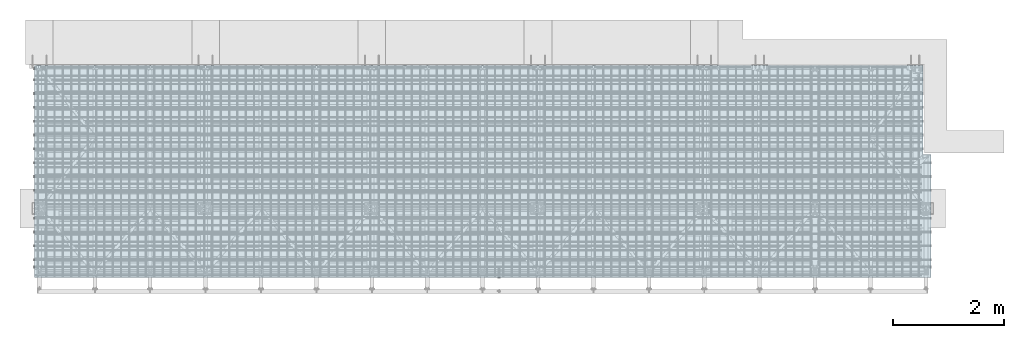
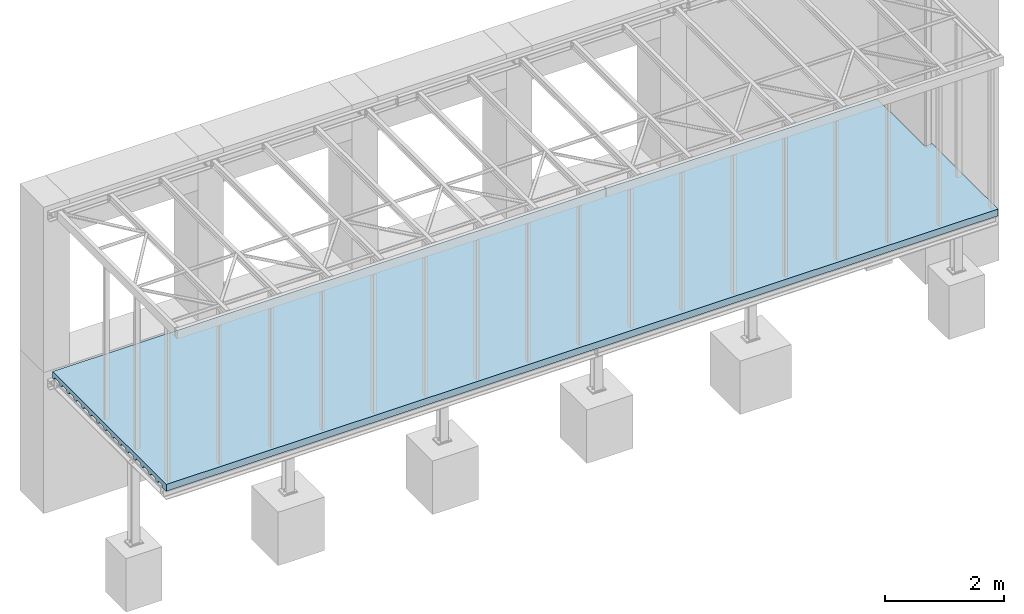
# One storey, part 27 of 27: 1 slab, 1 element without a shape of its own.
"""IFC2X3 building model written with IfcOpenShell, lengths in millimetres."""

from ifc_helpers import new_model, si_unit, frame, origin_with_axes, place, context, subcontext, project, spatial, faceted_brep, material, type_object, element, aggregate, save


model = new_model("IFC2X3")

# Units and contexts
model_context = context("Model", 3, precision=1e-05, world=origin_with_axes())
body_context = subcontext(model_context, "Body", "Model", "MODEL_VIEW")
ifc_project = project(units=[si_unit("LENGTHUNIT", "METRE", prefix="MILLI"), si_unit("AREAUNIT", "SQUARE_METRE"), si_unit("VOLUMEUNIT", "CUBIC_METRE"), si_unit("MASSUNIT", "GRAM", prefix="KILO"), si_unit("TIMEUNIT", "SECOND"), si_unit("PLANEANGLEUNIT", "RADIAN"), si_unit("SOLIDANGLEUNIT", "STERADIAN"), si_unit("THERMODYNAMICTEMPERATUREUNIT", "DEGREE_CELSIUS"), si_unit("LUMINOUSINTENSITYUNIT", "LUMEN")], contexts=[model_context])

# Site, building, storey
site_placement = place(None, origin_with_axes())
site = spatial("IfcSite", under=ifc_project, at=site_placement, Name="Undefined", CompositionType="ELEMENT")
building_placement = place(site_placement, origin_with_axes())
building = spatial("IfcBuilding", under=site, at=building_placement, Name="Undefined", CompositionType="ELEMENT")
storey_placement = place(building_placement, origin_with_axes())
storey = spatial("IfcBuildingStorey", under=building, at=storey_placement, Name="Undefined", CompositionType="ELEMENT", Elevation=0.0)

# Assembly, slab
assembly_placement = place(storey_placement, origin_with_axes())
assembly = element("IfcElementAssembly", 1, at=assembly_placement, inside=storey, Name="CONCRETE_SLAB", AssemblyPlace="NOTDEFINED", PredefinedType="REINFORCEMENT_UNIT")
ifc_material = material(Name="CONCRETE/C25/30")
slab_type = type_object("IfcSlabType", Name="140*3830", PredefinedType="NOTDEFINED")
slab_placement = place(assembly_placement, frame((-40.0, 10.0, -90.0), z_axis=(0.0, 1.0, 0.0), x_axis=(1.0, 0.0, 0.0)))
slab = element("IfcSlab", 2, at=slab_placement, type_object=slab_type, material=ifc_material, Name="PLECHODOSKA", ObjectType="140*3830", PredefinedType="FLOOR", context=body_context, shape_type="Brep", body=[
    faceted_brep([(16180.0, 70.0, 149.99756559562), (3.47478561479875e-08, 70.0, 149.99756559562), (3.47479343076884e-08, 21.4999900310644, 149.997558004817), (16180.0, 21.4999900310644, 149.997558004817), (6.07605983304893e-08, 21.5000003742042, 262.2875598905), (16180.0, 21.5000003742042, 262.2875598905), (16180.0, 70.0, 292.779999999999), (6.78242884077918e-08, 70.0, 292.779999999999), (16180.0, -70.0, 3.63797880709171e-12), (0.0, -70.0, 0.0), (0.0, 70.0, 0.0), (16180.0, 70.0, 3.63797880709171e-12), (16035.0, -70.0, 2220.0), (16180.0, -70.0, 2220.0), (16180.0, 21.4999973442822, 2220.0), (16035.0, 21.4999973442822, 2220.0), (16035.0, -70.0, 3830.0), (8.87243061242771e-07, -70.0, 3830.0), (16035.0, 70.0, 3830.0), (8.87243061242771e-07, 70.0, 3830.0), (16035.0, 70.0, 3792.78), (8.7862081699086e-07, 70.0, 3792.78), (16035.0, 21.5000003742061, 3762.2875598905), (8.71557055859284e-07, 21.5000003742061, 3762.2875598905), (16035.0, 21.4999907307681, 3627.69755919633), (8.40378454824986e-07, 21.4999907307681, 3627.69755919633), (16035.0, 70.0, 3597.19756910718), (8.3331294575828e-07, 70.0, 3597.19756910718), (16035.0, 70.0, 3542.78), (8.20706780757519e-07, 70.0, 3542.78), (16035.0, 21.5000003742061, 3512.2875598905), (8.13643019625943e-07, 21.5000003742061, 3512.2875598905), (16035.0, 21.4999907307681, 3377.69755919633), (7.82464418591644e-07, 21.4999907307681, 3377.69755919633), (16035.0, 70.0, 3347.19756910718), (7.75398909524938e-07, 70.0, 3347.19756910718), (16035.0, 70.0, 3292.78), (7.62792744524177e-07, 70.0, 3292.78), (16035.0, 21.5000003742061, 3262.2875598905), (7.55728983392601e-07, 21.5000003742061, 3262.2875598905), (16035.0, 21.4999907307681, 3127.69755919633), (7.24550382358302e-07, 21.4999907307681, 3127.69755919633), (16035.0, 70.0, 3097.19756910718), (7.17484873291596e-07, 70.0, 3097.19756910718), (16035.0, 70.0, 3042.78), (7.04878708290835e-07, 70.0, 3042.78), (16035.0, 21.5000003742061, 3012.2875598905), (6.97814954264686e-07, 21.5000003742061, 3012.2875598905), (16035.0, 21.4999907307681, 2877.69755919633), (6.66636353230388e-07, 21.4999907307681, 2877.69755919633), (16035.0, 70.0, 2847.19756910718), (6.59570837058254e-07, 70.0, 2847.19756910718), (16035.0, 70.0, 2792.78), (6.46964672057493e-07, 70.0, 2792.78), (16035.0, 21.5000003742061, 2762.2875598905), (6.39900889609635e-07, 21.5000003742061, 2762.2875598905), (16035.0, 21.4999907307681, 2627.69755919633), (6.08722288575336e-07, 21.4999907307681, 2627.69755919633), (16035.0, 70.0, 2597.19756910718), (6.01656800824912e-07, 70.0, 2597.19756910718), (16035.0, 70.0, 2542.78), (5.89050635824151e-07, 70.0, 2542.78), (16035.0, 21.5000003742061, 2512.2875598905), (5.81986867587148e-07, 21.5000003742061, 2512.2875598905), (16035.0, 21.4999907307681, 2377.69755919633), (5.50808266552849e-07, 21.4999907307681, 2377.69755919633), (16035.0, 70.0, 2347.19756910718), (5.4374276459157e-07, 70.0, 2347.19756910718), (16035.0, 70.0, 2292.78), (5.31136599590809e-07, 70.0, 2292.78), (16035.0, 21.5000003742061, 2262.2875598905), (5.24072817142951e-07, 21.5000003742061, 2262.2875598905), (16180.0, 21.4999907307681, 2127.69755919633), (4.92893377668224e-07, 21.4999907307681, 2127.69755919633), (16180.0, 70.0, 2097.19756910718), (4.85828728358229e-07, 70.0, 2097.19756910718), (16180.0, 70.0, 2042.78), (4.73222563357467e-07, 70.0, 2042.78), (16180.0, 21.5000003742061, 2012.2875598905), (4.66158802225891e-07, 21.5000003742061, 2012.2875598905), (16180.0, 21.4999907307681, 1877.69755919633), (4.3498020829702e-07, 21.4999907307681, 1877.69755919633), (16180.0, 70.0, 1847.19756910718), (4.27914692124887e-07, 70.0, 1847.19756910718), (16180.0, 70.0, 1792.78), (4.15308527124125e-07, 70.0, 1792.78), (16180.0, 21.5000003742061, 1762.2875598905), (4.08244765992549e-07, 21.5000003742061, 1762.2875598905), (16180.0, 21.4999907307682, 1627.69755919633), (3.77066172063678e-07, 21.4999907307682, 1627.69755919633), (16180.0, 70.0, 1597.19756910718), (3.70000655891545e-07, 70.0, 1597.19756910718), (16180.0, 70.0, 1542.78), (3.57394490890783e-07, 70.0, 1542.78), (16180.0, 21.5000003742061, 1512.2875598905), (3.50330743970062e-07, 21.5000003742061, 1512.2875598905), (16180.0, 21.4999907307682, 1377.69755919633), (3.19152150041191e-07, 21.4999907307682, 1377.69755919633), (16180.0, 70.0, 1347.19756910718), (3.12086612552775e-07, 70.0, 1347.19756910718), (16180.0, 70.0, 1292.78), (2.99480447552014e-07, 70.0, 1292.78), (16180.0, 21.5000003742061, 1262.2875598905), (2.9241670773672e-07, 21.5000003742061, 1262.2875598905), (16180.0, 21.4999907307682, 1127.69755919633), (2.61238113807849e-07, 21.4999907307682, 1127.69755919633), (16180.0, 70.0, 1097.19756910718), (2.54172576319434e-07, 70.0, 1097.19756910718), (16180.0, 70.0, 1042.78), (2.41566411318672e-07, 70.0, 1042.78), (16180.0, 21.5000003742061, 1012.2875598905), (2.34502685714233e-07, 21.5000003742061, 1012.2875598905), (16180.0, 21.4999907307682, 877.697559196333), (2.03324091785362e-07, 21.4999907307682, 877.697559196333), (16180.0, 70.0, 847.197569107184), (1.96258532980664e-07, 70.0, 847.197569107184), (16180.0, 70.0, 792.779999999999), (1.83652367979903e-07, 70.0, 792.779999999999), (16180.0, 21.5000003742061, 762.287559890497), (1.76588670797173e-07, 21.5000003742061, 762.287559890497), (16180.0, 21.4999907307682, 627.697559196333), (1.45410069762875e-07, 21.4999907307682, 627.697559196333), (16180.0, 70.0, 597.197569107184), (1.38344496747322e-07, 70.0, 597.197569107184), (16180.0, 70.0, 542.779999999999), (1.25738331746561e-07, 70.0, 542.779999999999), (16180.0, 21.5000003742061, 512.287559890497), (1.18674634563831e-07, 21.5000003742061, 512.287559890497), (16180.0, 21.4999907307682, 377.697559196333), (8.74960406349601e-08, 21.4999907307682, 377.697559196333), (16180.0, 70.0, 347.197569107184), (8.04304534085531e-08, 70.0, 347.197569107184)], [[[0, 1, 2, 3]], [[3, 2, 4, 5]], [[6, 5, 4, 7]], [[8, 9, 10, 11]], [[12, 13, 14, 15]], [[8, 13, 12, 16, 17, 9]], [[17, 16, 18, 19]], [[19, 18, 20, 21]], [[20, 22, 23, 21]], [[24, 25, 23, 22]], [[26, 27, 25, 24]], [[27, 26, 28, 29]], [[28, 30, 31, 29]], [[32, 33, 31, 30]], [[34, 35, 33, 32]], [[35, 34, 36, 37]], [[36, 38, 39, 37]], [[40, 41, 39, 38]], [[42, 43, 41, 40]], [[43, 42, 44, 45]], [[44, 46, 47, 45]], [[48, 49, 47, 46]], [[50, 51, 49, 48]], [[51, 50, 52, 53]], [[52, 54, 55, 53]], [[56, 57, 55, 54]], [[58, 59, 57, 56]], [[59, 58, 60, 61]], [[60, 62, 63, 61]], [[64, 65, 63, 62]], [[66, 67, 65, 64]], [[67, 66, 68, 69]], [[68, 70, 71, 69]], [[66, 64, 62, 60, 58, 56, 54, 52, 50, 48, 46, 44, 42, 40, 38, 36, 34, 32, 30, 28, 26, 24, 22, 20, 18, 16, 12, 15, 70, 68]], [[14, 72, 73, 71, 70, 15]], [[74, 75, 73, 72]], [[75, 74, 76, 77]], [[76, 78, 79, 77]], [[80, 81, 79, 78]], [[82, 83, 81, 80]], [[83, 82, 84, 85]], [[84, 86, 87, 85]], [[88, 89, 87, 86]], [[90, 91, 89, 88]], [[91, 90, 92, 93]], [[92, 94, 95, 93]], [[96, 97, 95, 94]], [[98, 99, 97, 96]], [[99, 98, 100, 101]], [[100, 102, 103, 101]], [[104, 105, 103, 102]], [[106, 107, 105, 104]], [[107, 106, 108, 109]], [[108, 110, 111, 109]], [[112, 113, 111, 110]], [[114, 115, 113, 112]], [[115, 114, 116, 117]], [[116, 118, 119, 117]], [[120, 121, 119, 118]], [[122, 123, 121, 120]], [[123, 122, 124, 125]], [[124, 126, 127, 125]], [[128, 129, 127, 126]], [[130, 131, 129, 128]], [[131, 130, 6, 7]], [[2, 1, 10, 9, 17, 19, 21, 23, 25, 27, 29, 31, 33, 35, 37, 39, 41, 43, 45, 47, 49, 51, 53, 55, 57, 59, 61, 63, 65, 67, 69, 71, 73, 75, 77, 79, 81, 83, 85, 87, 89, 91, 93, 95, 97, 99, 101, 103, 105, 107, 109, 111, 113, 115, 117, 119, 121, 123, 125, 127, 129, 131, 7, 4]], [[11, 10, 1, 0]], [[130, 128, 126, 124, 122, 120, 118, 116, 114, 112, 110, 108, 106, 104, 102, 100, 98, 96, 94, 92, 90, 88, 86, 84, 82, 80, 78, 76, 74, 72, 14, 13, 8, 11, 0, 3, 5, 6]]]),
])
aggregate(assembly, [slab])

save(model, "model.ifc")
